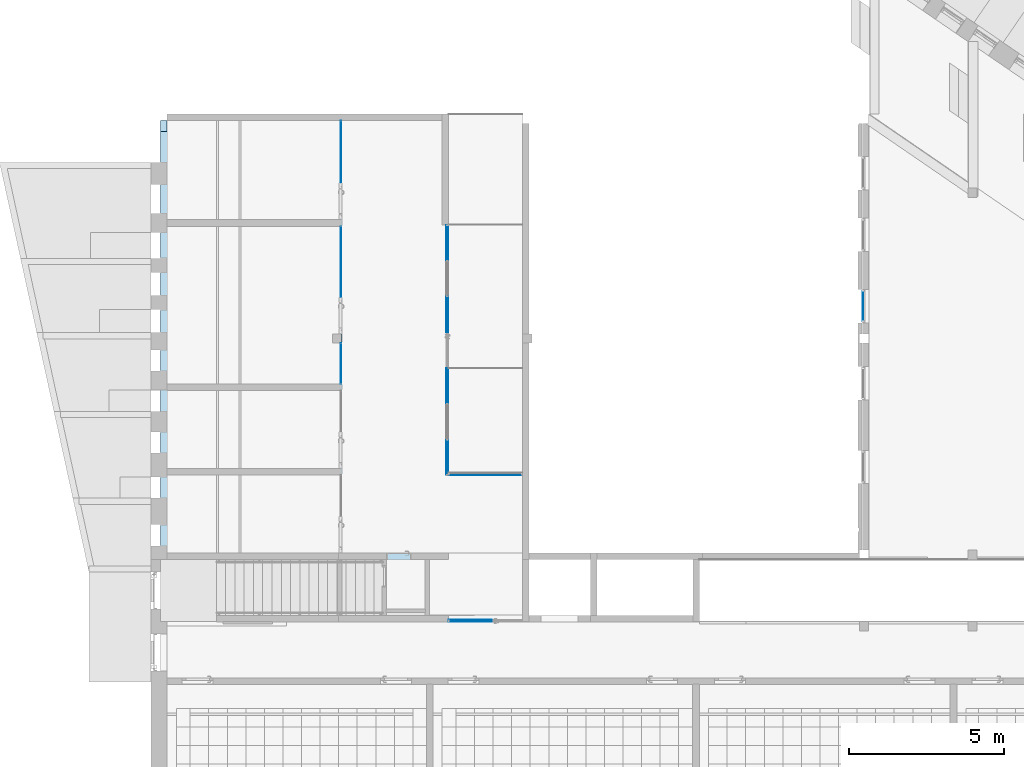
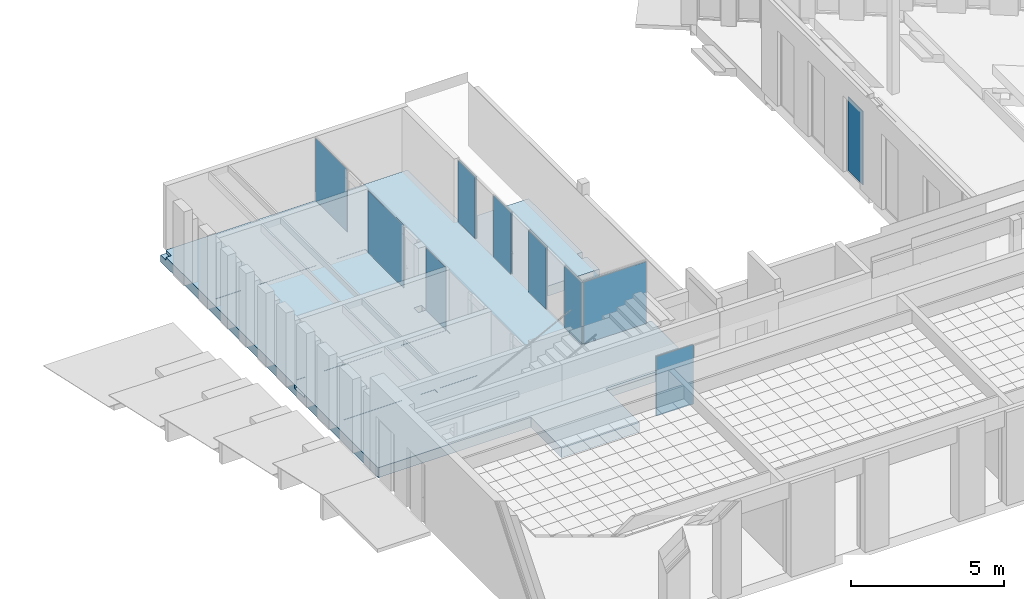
# One storey, part 31 of 79: 10 plates, 1 slab, 7 elements without a shape of their own.
"""IFC2X3 building model written with IfcOpenShell, lengths in millimetres."""

from ifc_helpers import new_model, entity, si_unit, converted_unit, derived_unit, money_unit, direction, frame, origin_with_axes, place, context, subcontext, project, spatial, faceted_brep, material, material_list, type_object, element, aggregate, save


model = new_model("IFC2X3")

# Units and contexts
model_context = context("Model", 3, precision=0.01, world=origin_with_axes(), true_north=direction((0.0, 1.0)))
body_context = subcontext(model_context, "Body", "Model", "MODEL_VIEW")
ifc_project = project(units=[si_unit("LENGTHUNIT", "METRE", prefix="MILLI"), si_unit("AREAUNIT", "SQUARE_METRE"), si_unit("VOLUMEUNIT", "CUBIC_METRE"), converted_unit("PLANEANGLEUNIT", "DEGREE", entity("IfcPlaneAngleMeasure", 0.0174532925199), si_unit("PLANEANGLEUNIT", "RADIAN"), dimensions=[0, 0, 0, 0, 0, 0, 0]), si_unit("SOLIDANGLEUNIT", "STERADIAN"), money_unit("EUR"), converted_unit("TIMEUNIT", "Year", entity("IfcTimeMeasure", 31556926.0), si_unit("TIMEUNIT", "SECOND"), dimensions=[0, 0, 1, 0, 0, 0, 0]), si_unit("MASSUNIT", "GRAM", prefix="KILO"), si_unit("THERMODYNAMICTEMPERATUREUNIT", "DEGREE_CELSIUS"), si_unit("LUMINOUSINTENSITYUNIT", "LUMEN"), si_unit("ENERGYUNIT", "JOULE", prefix="MEGA"), derived_unit("THERMALCONDUCTANCEUNIT", [(si_unit("POWERUNIT", "WATT"), 1), (si_unit("LENGTHUNIT", "METRE"), -1), (si_unit("THERMODYNAMICTEMPERATUREUNIT", "KELVIN"), -1)]), derived_unit("SPECIFICHEATCAPACITYUNIT", [(si_unit("ENERGYUNIT", "JOULE"), 1), (si_unit("MASSUNIT", "GRAM", prefix="KILO"), -1), (si_unit("THERMODYNAMICTEMPERATUREUNIT", "KELVIN"), -1)]), derived_unit("MASSDENSITYUNIT", [(si_unit("MASSUNIT", "GRAM", prefix="KILO"), 1), (si_unit("VOLUMEUNIT", "CUBIC_METRE"), -1)])], contexts=[model_context])

# Site, building, storey
site_placement = place(None, origin_with_axes())
site = spatial("IfcSite", under=ifc_project, at=site_placement, Name="L.Koidula tn 11b", CompositionType="ELEMENT")
building_placement = place(site_placement, origin_with_axes())
building = spatial("IfcBuilding", under=site, at=building_placement, Name="Rakvere Riigigümnaasium", CompositionType="ELEMENT")
storey_placement = place(building_placement, frame((0.0, 0.0, 3720.0), z_axis=(0.0, 0.0, 1.0), x_axis=(1.0, 0.0, 0.0)))
storey = spatial("IfcBuildingStorey", under=building, at=storey_placement, Name="2.korrus +3,72", CompositionType="ELEMENT", Elevation=3720.0)

# Curtain wall, plate
curtain_wall_type = type_object("IfcCurtainWallType", Name="Curtain Wall Type", PredefinedType="NOTDEFINED")
curtain_wall_1_placement = place(storey_placement, frame((58002.0348101, 25296.3068145, -1405.00005955), z_axis=(0.0, 0.0, 1.0), x_axis=(1.0, 0.0, 0.0)))
curtain_wall_1 = element("IfcCurtainWall", 1, at=curtain_wall_1_placement, inside=storey, type_object=curtain_wall_type, Name="SKLF-21")
ifc_material_1 = material(Name="Klaaspakett 3x")
plate_type_1 = type_object("IfcPlateType", Name="Distinct Panel 970 x 2940 x 24", PredefinedType="CURTAIN_PANEL")
plate_1_placement = place(curtain_wall_1_placement, frame((0.0, 0.0, 1515.00001953), z_axis=(0.0, 0.0, 1.0), x_axis=(0.0, 1.0, 0.0)))
plate_1 = element("IfcPlate", 2, at=plate_1_placement, type_object=plate_type_1, material=ifc_material_1, Name="KLF-06-17-Klaasid", ObjectType="CURTAIN_PANEL", context=body_context, shape_type="Brep", body=[
    faceted_brep([(-484.999942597, -12.0, 1470.00000909), (484.999974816, -12.0, 1470.00005425), (484.999974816, 12.0, 1470.00005425), (-484.999942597, 12.0, 1470.00000909), (-484.999942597, -12.0, -1470.0000343), (484.999974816, -12.0, -1470.0000343), (484.999974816, 12.0, -1470.0000343), (-484.999942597, 12.0, -1470.0000343)], [[[0, 1, 2, 3]], [[0, 4, 5, 1]], [[1, 5, 6, 2]], [[3, 2, 6, 7]], [[4, 0, 3, 7]], [[5, 4, 7, 6]]]),
])
aggregate(curtain_wall_1, [plate_1])

curtain_wall_2_placement = place(storey_placement, frame((41131.0009816, 23440.4555362, -2.36129205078e-06), z_axis=(0.0, 0.0, 1.0), x_axis=(1.0, 0.0, 0.0)))
curtain_wall_2 = element("IfcCurtainWall", 3, at=curtain_wall_2_placement, inside=storey, type_object=curtain_wall_type, Name="SKLF-14")
ifc_material_2 = material(Name="VKR-05_Klaas")
plate_type_2 = type_object("IfcPlateType", Name="Siseklaasfassaad - Klaas 1303 x 2491 x 11", PredefinedType="CURTAIN_PANEL")
plate_2_placement = place(curtain_wall_2_placement, frame((0.0, 0.0, 1253.99997294), z_axis=(0.0, 0.0, 1.0), x_axis=(0.0, -1.0, 0.0)))
plate_2 = element("IfcPlate", 4, at=plate_2_placement, type_object=plate_type_2, material=ifc_material_2, Name="PV-SKLF-45-klaas", ObjectType="CURTAIN_PANEL", context=body_context, shape_type="Brep", body=[
    faceted_brep([(-651.500000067, 4.0, 1245.49997706), (-651.500000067, -8.0, 1245.49997706), (651.500015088, -8.0, 1245.49997706), (651.500015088, 4.0, 1245.49997706), (-651.500000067, 4.0, -1245.49997706), (-651.500000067, -8.0, -1245.49997706), (651.500015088, -8.0, -1245.49997706), (651.500015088, 4.0, -1245.49997706)], [[[0, 1, 2, 3]], [[4, 5, 1, 0]], [[1, 5, 6, 2]], [[3, 2, 6, 7]], [[0, 3, 7, 4]], [[7, 6, 5, 4]]]),
])
aggregate(curtain_wall_2, [plate_2])

curtain_wall_3_placement = place(storey_placement, frame((41130.915445, 24920.4555468, 0.0), z_axis=(0.0, 0.0, 1.0), x_axis=(1.0, 0.0, 0.0)))
curtain_wall_3 = element("IfcCurtainWall", 5, at=curtain_wall_3_placement, inside=storey, type_object=curtain_wall_type, Name="SKLF-15")
plate_type_3 = type_object("IfcPlateType", Name="Siseklaasfassaad - Klaas 20 x 308 x 11", PredefinedType="CURTAIN_PANEL")
plate_3_placement = place(curtain_wall_3_placement, frame((0.0613159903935, 1455.15434008, 1490.5), z_axis=(0.0, 0.0, 1.0), x_axis=(-4.21371043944e-05, -0.999999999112, 0.0)))
plate_3 = element("IfcPlate", 6, at=plate_3_placement, type_object=plate_type_3, material=ifc_material_2, Name="PV-SKLF-32-klaas", ObjectType="CURTAIN_PANEL", context=body_context, shape_type="Brep", body=[
    faceted_brep([(828.052828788, 4.0, 1017.5), (828.052828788, -8.0, 1017.5), (847.724518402, -8.0, 1017.5), (847.724518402, 4.0, 1017.5), (828.052828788, 4.0, 1009.00000393), (828.052828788, -8.0, 1009.00000393), (-1485.84931519, -8.0, 1009.00000393), (-1485.84931519, -8.0, -1482.00000393), (847.724518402, -8.0, -1482.00000393), (847.724518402, 4.0, -1482.00000393), (-1485.84931519, 4.0, -1482.00000393), (-1485.84931519, 4.0, 1009.00000393)], [[[0, 1, 2, 3]], [[4, 5, 1, 0]], [[1, 5, 6, 7, 8, 2]], [[3, 2, 8, 9]], [[0, 3, 9, 10, 11, 4]], [[11, 6, 5, 4]], [[10, 7, 6, 11]], [[9, 8, 7, 10]]]),
])
aggregate(curtain_wall_3, [plate_3])

curtain_wall_4_placement = place(storey_placement, frame((41130.915445, 28609.9592257, 0.0), z_axis=(0.0, 0.0, 1.0), x_axis=(1.0, 0.0, 0.0)))
curtain_wall_4 = element("IfcCurtainWall", 7, at=curtain_wall_4_placement, inside=storey, type_object=curtain_wall_type, Name="SKLF-16")
plate_type_4 = type_object("IfcPlateType", Name="Siseklaasfassaad - Klaas 2065 x 300 x 11", PredefinedType="CURTAIN_PANEL")
plate_4_placement = place(curtain_wall_4_placement, frame((0.0674298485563, 1600.24874666, 1569.33333333), z_axis=(0.0, 0.0, 1.0), x_axis=(-4.21371043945e-05, -0.999999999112, 0.0)))
plate_4 = element("IfcPlate", 8, at=plate_4_placement, type_object=plate_type_4, material=ifc_material_2, Name="PV-SKLF-38-klaas", ObjectType="CURTAIN_PANEL", context=body_context, shape_type="Brep", body=[
    faceted_brep([(-1071.74873029, 4.0, 930.166670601), (-1071.74873029, -8.0, 930.166670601), (992.818925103, -8.0, 930.166670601), (992.818925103, 4.0, 930.166670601), (-1071.74873029, 4.0, -1560.83333727), (-1071.74873029, -8.0, -1560.83333727), (992.818925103, -8.0, -1560.83333727), (992.818925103, 4.0, -1560.83333727)], [[[0, 1, 2, 3]], [[4, 5, 1, 0]], [[1, 5, 6, 2]], [[3, 2, 6, 7]], [[0, 3, 7, 4]], [[7, 6, 5, 4]]]),
])
aggregate(curtain_wall_4, [plate_4])

curtain_wall_5_placement = place(storey_placement, frame((45794.9999935, 19868.2190306, 0.0), z_axis=(0.0, 0.0, 1.0), x_axis=(1.0, 0.0, 0.0)))
curtain_wall_5 = element("IfcCurtainWall", 9, at=curtain_wall_5_placement, inside=storey, type_object=curtain_wall_type, Name="SKLF-18")
plate_type_5 = type_object("IfcPlateType", Name="Siseklaasfassaad - Klaas-Doubleline30 2360 x 2463 x 17", PredefinedType="CURTAIN_PANEL")
plate_5_placement = place(curtain_wall_5_placement, frame((0.0, 0.0, 1246.50001132), z_axis=(0.0, 0.0, 1.0), x_axis=(1.0, 0.0, 0.0)))
plate_5 = element("IfcPlate", 10, at=plate_5_placement, type_object=plate_type_5, material=ifc_material_2, Name="Panel-Siseklaasf-104", ObjectType="CURTAIN_PANEL", context=body_context, shape_type="Brep", body=[
    faceted_brep([(-1179.99999788, -37.0, 1231.49998866), (1179.99997733, -37.0, 1231.49998866), (1179.99997733, -25.0, 1231.49998866), (-1179.99999788, -25.0, 1231.49998866), (-1179.99999788, -37.0, -1231.49998866), (1179.99997733, -37.0, -1231.49998866), (1179.99997733, -25.0, -1231.49998866), (-1179.99999788, -25.0, -1231.49998866)], [[[0, 1, 2, 3]], [[0, 4, 5, 1]], [[1, 5, 6, 2]], [[3, 2, 6, 7]], [[4, 0, 3, 7]], [[5, 4, 7, 6]]]),
    faceted_brep([(-1179.99999788, 15.0, 1231.49998866), (1179.99997733, 15.0, 1231.49998866), (1179.99997733, 27.0, 1231.49998866), (-1179.99999788, 27.0, 1231.49998866), (-1179.99999788, 15.0, -1231.49998866), (1179.99997733, 15.0, -1231.49998866), (1179.99997733, 27.0, -1231.49998866), (-1179.99999788, 27.0, -1231.49998866)], [[[0, 1, 2, 3]], [[0, 4, 5, 1]], [[1, 5, 6, 2]], [[3, 2, 6, 7]], [[4, 0, 3, 7]], [[5, 4, 7, 6]]]),
])
aggregate(curtain_wall_5, [plate_5])

# Curtain wall, plates
curtain_wall_6_placement = place(storey_placement, frame((44568.0000786, 20404.7190306, -3.55964617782e-05), z_axis=(0.0, 0.0, 1.0), x_axis=(1.0, 0.0, 0.0)))
curtain_wall_6 = element("IfcCurtainWall", 11, at=curtain_wall_6_placement, inside=storey, type_object=curtain_wall_type, Name="SKLF-17")
plate_type_6 = type_object("IfcPlateType", Name="Siseklaasfassaad - Klaas-Doubleline30 1125 x 2463 x 17", PredefinedType="CURTAIN_PANEL")
plate_6_placement = place(curtain_wall_6_placement, frame((0.0, 0.0, 1246.5000178), z_axis=(0.0, 0.0, 1.0), x_axis=(0.0, -1.0, 0.0)))
plate_6 = element("IfcPlate", 12, at=plate_6_placement, type_object=plate_type_6, material=ifc_material_2, Name="Panel-Siseklaasf-127", ObjectType="CURTAIN_PANEL", context=body_context, shape_type="Brep", body=[
    faceted_brep([(-561.499982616, -37.0, 1231.49999505), (563.499977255, -37.0, 1231.49999505), (563.499977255, -25.0, 1231.49999505), (-561.499982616, -25.0, 1231.49999505), (-561.499982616, -37.0, -1231.49999505), (563.499977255, -37.0, -1231.49999505), (563.499977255, -25.0, -1231.49999505), (-561.499982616, -25.0, -1231.49999505)], [[[0, 1, 2, 3]], [[0, 4, 5, 1]], [[1, 5, 6, 2]], [[3, 2, 6, 7]], [[4, 0, 3, 7]], [[5, 4, 7, 6]]]),
    faceted_brep([(-561.499982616, 15.0, 1231.49999505), (563.499977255, 15.0, 1231.49999505), (563.499977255, 27.0, 1231.49999505), (-561.499982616, 27.0, 1231.49999505), (-561.499982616, 15.0, -1231.49999505), (563.499977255, 15.0, -1231.49999505), (563.499977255, 27.0, -1231.49999505), (-561.499982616, 27.0, -1231.49999505)], [[[0, 1, 2, 3]], [[0, 4, 5, 1]], [[1, 5, 6, 2]], [[3, 2, 6, 7]], [[4, 0, 3, 7]], [[5, 4, 7, 6]]]),
])
plate_7_placement = place(curtain_wall_6_placement, frame((0.0, 6937.0182276, 1246.5000178), z_axis=(0.0, 0.0, 1.0), x_axis=(0.0, -1.0, 0.0)))
plate_7 = element("IfcPlate", 13, at=plate_7_placement, type_object=plate_type_6, material=ifc_material_2, Name="Panel-Siseklaasf-131", ObjectType="CURTAIN_PANEL", context=body_context, shape_type="Brep", body=[
    faceted_brep([(-563.51820581, -37.0, 1231.49999505), (561.518196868, -37.0, 1231.49999505), (561.518196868, -25.0, 1231.49999505), (-563.51820581, -25.0, 1231.49999505), (-563.51820581, -37.0, -1231.49999505), (561.518196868, -37.0, -1231.49999505), (561.518196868, -25.0, -1231.49999505), (-563.51820581, -25.0, -1231.49999505)], [[[0, 1, 2, 3]], [[0, 4, 5, 1]], [[1, 5, 6, 2]], [[3, 2, 6, 7]], [[4, 0, 3, 7]], [[5, 4, 7, 6]]]),
    faceted_brep([(-563.51820581, 15.0, 1231.49999505), (561.518196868, 15.0, 1231.49999505), (561.518196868, 27.0, 1231.49999505), (-563.51820581, 27.0, 1231.49999505), (-563.51820581, 15.0, -1231.49999505), (561.518196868, 15.0, -1231.49999505), (561.518196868, 27.0, -1231.49999505), (-563.51820581, 27.0, -1231.49999505)], [[[0, 1, 2, 3]], [[0, 4, 5, 1]], [[1, 5, 6, 2]], [[3, 2, 6, 7]], [[4, 0, 3, 7]], [[5, 4, 7, 6]]]),
])
plate_type_7 = type_object("IfcPlateType", Name="Siseklaasfassaad - Klaas-Doubleline30 1139 x 2463 x 17", PredefinedType="CURTAIN_PANEL")
plate_8_placement = place(curtain_wall_6_placement, frame((0.0, 2312.5, 1246.5000178), z_axis=(0.0, 0.0, 1.0), x_axis=(0.0, -1.0, 0.0)))
plate_8 = element("IfcPlate", 14, at=plate_8_placement, type_object=plate_type_7, material=ifc_material_2, Name="Panel-Siseklaasf-128", ObjectType="CURTAIN_PANEL", context=body_context, shape_type="Brep", body=[
    faceted_brep([(-578.000009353, -37.0, 1231.49999505), (560.999969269, -37.0, 1231.49999505), (560.999969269, -25.0, 1231.49999505), (-578.000009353, -25.0, 1231.49999505), (-578.000009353, -37.0, -1231.49999505), (560.999969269, -37.0, -1231.49999505), (560.999969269, -25.0, -1231.49999505), (-578.000009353, -25.0, -1231.49999505)], [[[0, 1, 2, 3]], [[0, 4, 5, 1]], [[1, 5, 6, 2]], [[3, 2, 6, 7]], [[4, 0, 3, 7]], [[5, 4, 7, 6]]]),
    faceted_brep([(-578.000009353, 15.0, 1231.49999505), (560.999969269, 15.0, 1231.49999505), (560.999969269, 27.0, 1231.49999505), (-578.000009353, 27.0, 1231.49999505), (-578.000009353, 15.0, -1231.49999505), (560.999969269, 15.0, -1231.49999505), (560.999969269, 27.0, -1231.49999505), (-578.000009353, 27.0, -1231.49999505)], [[[0, 1, 2, 3]], [[0, 4, 5, 1]], [[1, 5, 6, 2]], [[3, 2, 6, 7]], [[4, 0, 3, 7]], [[5, 4, 7, 6]]]),
])
plate_9_placement = place(curtain_wall_6_placement, frame((0.0, 4624.5, 1246.5000178), z_axis=(0.0, 0.0, 1.0), x_axis=(0.0, -1.0, 0.0)))
plate_9 = element("IfcPlate", 15, at=plate_9_placement, type_object=plate_type_7, material=ifc_material_2, Name="Panel-Siseklaasf-129", ObjectType="CURTAIN_PANEL", context=body_context, shape_type="Brep", body=[
    faceted_brep([(-560.999978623, -37.0, 1231.49999505), (578.0, -37.0, 1231.49999505), (578.0, -25.0, 1231.49999505), (-560.999978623, -25.0, 1231.49999505), (-560.999978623, -37.0, -1231.49999505), (578.0, -37.0, -1231.49999505), (578.0, -25.0, -1231.49999505), (-560.999978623, -25.0, -1231.49999505)], [[[0, 1, 2, 3]], [[0, 4, 5, 1]], [[1, 5, 6, 2]], [[3, 2, 6, 7]], [[4, 0, 3, 7]], [[5, 4, 7, 6]]]),
    faceted_brep([(-560.999978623, 15.0, 1231.49999505), (578.0, 15.0, 1231.49999505), (578.0, 27.0, 1231.49999505), (-560.999978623, 27.0, 1231.49999505), (-560.999978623, 15.0, -1231.49999505), (578.0, 15.0, -1231.49999505), (578.0, 27.0, -1231.49999505), (-560.999978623, 27.0, -1231.49999505)], [[[0, 1, 2, 3]], [[0, 4, 5, 1]], [[1, 5, 6, 2]], [[3, 2, 6, 7]], [[4, 0, 3, 7]], [[5, 4, 7, 6]]]),
])
aggregate(curtain_wall_6, [plate_6, plate_8, plate_9, plate_7])

# Curtain wall, plate
curtain_wall_7_placement = place(storey_placement, frame((45299.9999374, 15122.4785302, 0.0), z_axis=(0.0, 0.0, 1.0), x_axis=(1.0, 0.0, 0.0)))
curtain_wall_7 = element("IfcCurtainWall", 16, at=curtain_wall_7_placement, inside=storey, type_object=curtain_wall_type, Name="SKLF-11")
plate_type_8 = type_object("IfcPlateType", Name="Siseklaasfassaad - Klaas-Doubleline30 1385 x 2370 x 17", PredefinedType="CURTAIN_PANEL")
plate_10_placement = place(curtain_wall_7_placement, frame((0.0, 0.0, 1200.00000581), z_axis=(0.0, 0.0, 1.0), x_axis=(-1.0, 0.0, 0.0)))
plate_10 = element("IfcPlate", 17, at=plate_10_placement, type_object=plate_type_8, material=ifc_material_2, Name="Panel-Siseklaasf-104", ObjectType="CURTAIN_PANEL", context=body_context, shape_type="Brep", body=[
    faceted_brep([(-700.00000678, -37.0, 1185.00000574), (684.999999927, -37.0, 1185.00000574), (684.999999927, -25.0, 1185.00000574), (-700.00000678, -25.0, 1185.00000574), (-700.00000678, -37.0, -1185.00000574), (684.999999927, -37.0, -1185.00000574), (684.999999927, -25.0, -1185.00000574), (-700.00000678, -25.0, -1185.00000574)], [[[0, 1, 2, 3]], [[0, 4, 5, 1]], [[1, 5, 6, 2]], [[3, 2, 6, 7]], [[4, 0, 3, 7]], [[5, 4, 7, 6]]]),
    faceted_brep([(-700.00000678, 15.0, 1185.00000574), (684.999999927, 15.0, 1185.00000574), (684.999999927, 27.0, 1185.00000574), (-700.00000678, 27.0, 1185.00000574), (-700.00000678, 15.0, -1185.00000574), (684.999999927, 15.0, -1185.00000574), (684.999999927, 27.0, -1185.00000574), (-700.00000678, 27.0, -1185.00000574)], [[[0, 1, 2, 3]], [[0, 4, 5, 1]], [[1, 5, 6, 2]], [[3, 2, 6, 7]], [[4, 0, 3, 7]], [[5, 4, 7, 6]]]),
])
aggregate(curtain_wall_7, [plate_10])

# Slab
ifc_material_3 = material(Name="vaip")
ifc_material_4 = material(Name="Betoon")
ifc_material_5 = material(Name="Mürasummutus vill")
ifc_material_6 = material(Name="Betoon õõnespaneel")
ifc_material_list = material_list([ifc_material_3, ifc_material_4, ifc_material_5, ifc_material_6])
slab_type = type_object("IfcSlabType", Name="VL-01-3 395", PredefinedType="NOTDEFINED")
slab_placement = place(storey_placement, frame((35300.0, 17110.4555518, 0.0), z_axis=(0.0, 0.0, 1.0), x_axis=(1.0, 0.0, 0.0)))
element("IfcSlab", 18, at=slab_placement, inside=storey, type_object=slab_type, material=ifc_material_list, Name="Vahelagi", PredefinedType="NOTDEFINED", context=body_context, shape_type="Brep", body=[
    faceted_brep([(11700.0013931, 6989.99999544, -5.0), (11899.9998088, 6989.99999544, -5.0), (11899.9998088, 6180.01573363, -5.0), (9300.00013458, 6180.01573363, -5.0), (9300.00013458, 2789.7634696, -5.0), (11899.9998088, 2789.7634696, -5.0), (11899.9998088, 199.999826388, -5.0), (8679.99980375, 199.999826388, -5.0), (8679.99980375, -2009.98010201, -5.0), (5750.00104361, -2009.98010201, -5.0), (5750.00104361, 0.0, -5.0), (0.0, 0.0, -5.0), (0.0, 5459.99997349, -5.0), (3820.00728562, 5459.99997349, -5.0), (3820.00728562, 5659.99997349, -5.0), (200.000052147, 5659.99997349, -5.0), (200.000052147, 5469.99997349, -5.0), (0.0, 5469.99997349, -5.0), (0.0, 13819.9999735, -5.0), (200.000052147, 13819.9999735, -5.0), (200.000052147, 14189.9999593, -5.0), (9300.00013458, 14190.0000418, -5.0), (9300.00013458, 10809.9997411, -5.0), (11899.9998088, 10809.9999825, -5.0), (11899.9998088, 7289.99999544, -5.0), (11700.0013931, 7289.99999544, -5.0), (200.000052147, 10969.5036744, -5.0), (200.000052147, 10769.5036744, -5.0), (5850.00098215, 10769.5036744, -5.0), (5850.00098215, 10969.5036744, -5.0), (4020.00728562, 5659.99997349, -5.0), (4020.00728562, 5459.99997349, -5.0), (5850.00098215, 5459.99997349, -5.0), (5850.00098215, 5659.99997349, -5.0), (4020.00728562, 2929.99997058, -5.0), (4020.00728562, 2729.99997058, -5.0), (5850.00098215, 2729.99997058, -5.0), (5850.00098215, 2929.99997058, -5.0), (200.000052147, 2929.99997058, -5.0), (200.000052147, 2729.99997058, -5.0), (3820.00728562, 2729.99997058, -5.0), (3820.00728562, 2929.99997058, -5.0), (5550.00098215, 6989.99999544, -5.0), (5850.00098215, 6989.99999544, -5.0), (5850.00098215, 7289.99999544, -5.0), (5550.00098215, 7289.99999544, -5.0), (11700.0013931, 6989.99999544, 0.0), (11899.9998088, 6989.99999544, 0.0), (11899.9998088, 6180.01573363, 0.0), (9300.00013458, 6180.01573363, 0.0), (9300.00013458, 2789.7634696, 0.0), (11899.9998088, 2789.7634696, 0.0), (11899.9998088, 199.999826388, 0.0), (8679.99980375, 199.999826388, 0.0), (8679.99980375, -2009.98010201, 0.0), (5750.00104361, -2009.98010201, 0.0), (5750.00104361, 0.0, 0.0), (0.0, 0.0, 0.0), (0.0, 5459.99997349, 0.0), (3820.00728562, 5459.99997349, 0.0), (3820.00728562, 5659.99997349, 0.0), (200.000052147, 5659.99997349, 0.0), (200.000052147, 5469.99997349, 0.0), (0.0, 5469.99997349, 0.0), (0.0, 13819.9999735, 1.96695504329e-06), (200.000052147, 13819.9999735, 1.96695504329e-06), (200.000052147, 14189.9999593, 1.96695504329e-06), (9300.00013458, 14190.0000418, 0.0), (9300.00013458, 10809.9997411, 0.0), (11899.9998088, 10809.9999825, 0.0), (11899.9998088, 7289.99999544, 0.0), (11700.0013931, 7289.99999544, 0.0), (200.000052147, 10969.5036744, 0.0), (200.000052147, 10769.5036744, 0.0), (5850.00098215, 10769.5036744, 0.0), (5850.00098215, 10969.5036744, 0.0), (4020.00728562, 5659.99997349, 0.0), (4020.00728562, 5459.99997349, 0.0), (5850.00098215, 5459.99997349, 0.0), (5850.00098215, 5659.99997349, 0.0), (4020.00728562, 2929.99997058, 0.0), (4020.00728562, 2729.99997058, 0.0), (5850.00098215, 2729.99997058, 0.0), (5850.00098215, 2929.99997058, 0.0), (200.000052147, 2929.99997058, 0.0), (200.000052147, 2729.99997058, 0.0), (3820.00728562, 2729.99997058, 0.0), (3820.00728562, 2929.99997058, 0.0), (5550.00098215, 6989.99999544, 0.0), (5850.00098215, 6989.99999544, 0.0), (5850.00098215, 7289.99999544, 0.0), (5550.00098215, 7289.99999544, 0.0)], [[[0, 1, 2, 3, 4, 5, 6, 7, 8, 9, 10, 11, 12, 13, 14, 15, 16, 17, 18, 19, 20, 21, 22, 23, 24, 25], [26, 27, 28, 29], [30, 31, 32, 33], [34, 35, 36, 37], [38, 39, 40, 41], [42, 43, 44, 45]], [[46, 47, 1, 0]], [[1, 47, 48, 2]], [[49, 3, 2, 48]], [[50, 4, 3, 49]], [[51, 5, 4, 50]], [[52, 6, 5, 51]], [[53, 7, 6, 52]], [[54, 8, 7, 53]], [[55, 9, 8, 54]], [[56, 10, 9, 55]], [[57, 11, 10, 56]], [[57, 58, 12, 11]], [[58, 59, 13, 12]], [[13, 59, 60, 14]], [[14, 60, 61, 15]], [[15, 61, 62, 16]], [[16, 62, 63, 17]], [[18, 17, 63, 64]], [[18, 64, 65, 19]], [[19, 65, 66, 20]], [[21, 20, 66, 67]], [[68, 22, 21, 67]], [[69, 23, 22, 68]], [[70, 24, 23, 69]], [[24, 70, 71, 25]], [[71, 46, 0, 25]], [[26, 72, 73, 27]], [[27, 73, 74, 28]], [[28, 74, 75, 29]], [[29, 75, 72, 26]], [[30, 76, 77, 31]], [[31, 77, 78, 32]], [[32, 78, 79, 33]], [[33, 79, 76, 30]], [[34, 80, 81, 35]], [[35, 81, 82, 36]], [[36, 82, 83, 37]], [[37, 83, 80, 34]], [[38, 84, 85, 39]], [[39, 85, 86, 40]], [[40, 86, 87, 41]], [[41, 87, 84, 38]], [[88, 89, 43, 42]], [[89, 90, 44, 43]], [[90, 91, 45, 44]], [[91, 88, 42, 45]], [[46, 71, 70, 69, 68, 67, 66, 65, 64, 63, 62, 61, 60, 59, 58, 57, 56, 55, 54, 53, 52, 51, 50, 49, 48, 47], [74, 73, 72, 75], [78, 77, 76, 79], [82, 81, 80, 83], [86, 85, 84, 87], [88, 91, 90, 89]]]),
    faceted_brep([(11700.0013931, 6989.99999544, -100.0), (11899.9998088, 6989.99999544, -100.0), (11899.9998088, 6180.01573363, -100.0), (9300.00013458, 6180.01573363, -100.0), (9300.00013458, 2789.7634696, -100.0), (11899.9998088, 2789.7634696, -100.0), (11899.9998088, 199.999826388, -100.0), (8679.99980375, 199.999826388, -100.0), (8679.99980375, -2009.98010201, -100.0), (5750.00104361, -2009.98010201, -100.0), (5750.00104361, 0.0, -100.0), (0.0, 0.0, -100.0), (5.21467029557e-05, 4799.99997349, -100.0), (200.000052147, 4799.99997349, -100.0), (200.000052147, 5449.99997349, -100.0), (5.21467029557e-05, 5449.99997349, -100.0), (0.0, 13819.9999735, -100.0), (200.000052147, 13819.9999735, -100.0), (200.000052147, 14189.9999593, -100.0), (9300.00013458, 14190.0000418, -100.0), (9300.00013458, 10809.9997411, -100.0), (11899.9998088, 10809.9999825, -100.0), (11899.9998088, 7289.99999544, -100.0), (11700.0013931, 7289.99999544, -100.0), (5550.00098215, 6989.99999544, -100.0), (5850.00098215, 6989.99999544, -100.0), (5850.00098215, 7289.99999544, -100.0), (5550.00098215, 7289.99999544, -100.0), (11700.0013931, 6989.99999544, -5.0), (11899.9998088, 6989.99999544, -5.0), (11899.9998088, 6180.01573363, -5.0), (9300.00013458, 6180.01573363, -5.0), (9300.00013458, 2789.7634696, -5.0), (11899.9998088, 2789.7634696, -5.0), (11899.9998088, 199.999826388, -5.0), (8679.99980375, 199.999826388, -5.0), (8679.99980375, -2009.98010201, -5.0), (5750.00104361, -2009.98010201, -5.0), (5750.00104361, 0.0, -5.0), (0.0, 0.0, -5.0), (5.21467029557e-05, 4799.99997349, -5.0), (200.000052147, 4799.99997349, -5.0), (200.000052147, 5449.99997349, -5.0), (5.21467029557e-05, 5449.99997349, -5.0), (0.0, 13819.9999735, -5.0), (200.000052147, 13819.9999735, -5.0), (200.000052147, 14189.9999593, -5.0), (9300.00013458, 14190.0000418, -5.0), (9300.00013458, 10809.9997411, -5.0), (11899.9998088, 10809.9999825, -5.0), (11899.9998088, 7289.99999544, -5.0), (11700.0013931, 7289.99999544, -5.0), (5550.00098215, 6989.99999544, -5.0), (5850.00098215, 6989.99999544, -5.0), (5850.00098215, 7289.99999544, -5.0), (5550.00098215, 7289.99999544, -5.0)], [[[0, 1, 2, 3, 4, 5, 6, 7, 8, 9, 10, 11, 12, 13, 14, 15, 16, 17, 18, 19, 20, 21, 22, 23], [24, 25, 26, 27]], [[28, 29, 1, 0]], [[1, 29, 30, 2]], [[31, 3, 2, 30]], [[32, 4, 3, 31]], [[33, 5, 4, 32]], [[34, 6, 5, 33]], [[35, 7, 6, 34]], [[36, 8, 7, 35]], [[37, 9, 8, 36]], [[38, 10, 9, 37]], [[39, 11, 10, 38]], [[39, 40, 12, 11]], [[12, 40, 41, 13]], [[13, 41, 42, 14]], [[14, 42, 43, 15]], [[16, 15, 43, 44]], [[16, 44, 45, 17]], [[17, 45, 46, 18]], [[19, 18, 46, 47]], [[48, 20, 19, 47]], [[49, 21, 20, 48]], [[50, 22, 21, 49]], [[22, 50, 51, 23]], [[51, 28, 0, 23]], [[52, 53, 25, 24]], [[53, 54, 26, 25]], [[54, 55, 27, 26]], [[55, 52, 24, 27]], [[28, 51, 50, 49, 48, 47, 46, 45, 44, 43, 42, 41, 40, 39, 38, 37, 36, 35, 34, 33, 32, 31, 30, 29], [52, 55, 54, 53]]]),
    faceted_brep([(11700.0013931, 6989.99999544, -130.0), (11899.9998088, 6989.99999544, -130.0), (11899.9998088, 6180.01573363, -130.0), (9300.00013458, 6180.01573363, -130.0), (9300.00013458, 2789.7634696, -130.0), (11899.9998088, 2789.7634696, -130.0), (11899.9998088, 199.999826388, -130.0), (8679.99980375, 199.999826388, -130.0), (8679.99980375, -2009.98010201, -130.0), (5750.00104361, -2009.98010201, -130.0), (5750.00104361, 0.0, -130.0), (0.0, 0.0, -130.0), (5.21467029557e-05, 4799.99997349, -130.0), (200.000052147, 4799.99997349, -130.0), (200.000052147, 5449.99997349, -130.0), (5.21467029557e-05, 5449.99997349, -130.0), (0.0, 13819.9999735, -130.0), (200.000052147, 13819.9999735, -130.0), (200.000052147, 14189.9999593, -130.0), (9300.00013458, 14190.0000418, -130.0), (9300.00013458, 10809.9997411, -130.0), (11899.9998088, 10809.9999825, -130.0), (11899.9998088, 7289.99999544, -130.0), (11700.0013931, 7289.99999544, -130.0), (5550.00098215, 6989.99999544, -130.0), (5850.00098215, 6989.99999544, -130.0), (5850.00098215, 7289.99999544, -130.0), (5550.00098215, 7289.99999544, -130.0), (11700.0013931, 6989.99999544, -100.0), (11899.9998088, 6989.99999544, -100.0), (11899.9998088, 6180.01573363, -100.0), (9300.00013458, 6180.01573363, -100.0), (9300.00013458, 2789.7634696, -100.0), (11899.9998088, 2789.7634696, -100.0), (11899.9998088, 199.999826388, -100.0), (8679.99980375, 199.999826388, -100.0), (8679.99980375, -2009.98010201, -100.0), (5750.00104361, -2009.98010201, -100.0), (5750.00104361, 0.0, -100.0), (0.0, 0.0, -100.0), (5.21467029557e-05, 4799.99997349, -100.0), (200.000052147, 4799.99997349, -100.0), (200.000052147, 5449.99997349, -100.0), (5.21467029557e-05, 5449.99997349, -100.0), (0.0, 13819.9999735, -100.0), (200.000052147, 13819.9999735, -100.0), (200.000052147, 14189.9999593, -100.0), (9300.00013458, 14190.0000418, -100.0), (9300.00013458, 10809.9997411, -100.0), (11899.9998088, 10809.9999825, -100.0), (11899.9998088, 7289.99999544, -100.0), (11700.0013931, 7289.99999544, -100.0), (5550.00098215, 6989.99999544, -100.0), (5850.00098215, 6989.99999544, -100.0), (5850.00098215, 7289.99999544, -100.0), (5550.00098215, 7289.99999544, -100.0)], [[[0, 1, 2, 3, 4, 5, 6, 7, 8, 9, 10, 11, 12, 13, 14, 15, 16, 17, 18, 19, 20, 21, 22, 23], [24, 25, 26, 27]], [[28, 29, 1, 0]], [[1, 29, 30, 2]], [[31, 3, 2, 30]], [[32, 4, 3, 31]], [[33, 5, 4, 32]], [[34, 6, 5, 33]], [[35, 7, 6, 34]], [[36, 8, 7, 35]], [[37, 9, 8, 36]], [[38, 10, 9, 37]], [[39, 11, 10, 38]], [[39, 40, 12, 11]], [[12, 40, 41, 13]], [[13, 41, 42, 14]], [[14, 42, 43, 15]], [[16, 15, 43, 44]], [[16, 44, 45, 17]], [[17, 45, 46, 18]], [[19, 18, 46, 47]], [[48, 20, 19, 47]], [[49, 21, 20, 48]], [[50, 22, 21, 49]], [[22, 50, 51, 23]], [[51, 28, 0, 23]], [[52, 53, 25, 24]], [[53, 54, 26, 25]], [[54, 55, 27, 26]], [[55, 52, 24, 27]], [[28, 51, 50, 49, 48, 47, 46, 45, 44, 43, 42, 41, 40, 39, 38, 37, 36, 35, 34, 33, 32, 31, 30, 29], [52, 55, 54, 53]]]),
    faceted_brep([(11700.0013931, 6989.99999544, -395.0), (11899.9998088, 6989.99999544, -395.0), (11899.9998088, 6180.01573363, -395.0), (9300.00013458, 6180.01573363, -395.0), (9300.00013458, 2789.7634696, -395.0), (11899.9998088, 2789.7634696, -395.0), (11899.9998088, 199.999826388, -395.0), (8679.99980375, 199.999826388, -395.0), (8679.99980375, -2009.98010201, -395.0), (5750.00104361, -2009.98010201, -395.0), (5750.00104361, 0.0, -395.0), (0.0, 0.0, -395.0), (0.0, 14190.0000418, -395.0), (9300.00013458, 14190.0000418, -395.0), (9300.00013458, 10809.9997411, -395.0), (11899.9998088, 10809.9999825, -395.0), (11899.9998088, 7289.99999544, -395.0), (11700.0013931, 7289.99999544, -395.0), (5550.00098215, 6989.99999544, -395.0), (5850.00098215, 6989.99999544, -395.0), (5850.00098215, 7289.99999544, -395.0), (5550.00098215, 7289.99999544, -395.0), (11700.0013931, 6989.99999544, -130.0), (11899.9998088, 6989.99999544, -130.0), (11899.9998088, 6180.01573363, -130.0), (9300.00013458, 6180.01573363, -130.0), (9300.00013458, 2789.7634696, -130.0), (11899.9998088, 2789.7634696, -130.0), (11899.9998088, 199.999826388, -130.0), (8679.99980375, 199.999826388, -130.0), (8679.99980375, -2009.98010201, -130.0), (5750.00104361, -2009.98010201, -130.0), (5750.00104361, 0.0, -130.0), (0.0, 0.0, -130.0), (0.0, 14190.0000418, -130.0), (9300.00013458, 14190.0000418, -130.0), (9300.00013458, 10809.9997411, -130.0), (11899.9998088, 10809.9999825, -130.0), (11899.9998088, 7289.99999544, -130.0), (11700.0013931, 7289.99999544, -130.0), (5550.00098215, 6989.99999544, -130.0), (5850.00098215, 6989.99999544, -130.0), (5850.00098215, 7289.99999544, -130.0), (5550.00098215, 7289.99999544, -130.0)], [[[0, 1, 2, 3, 4, 5, 6, 7, 8, 9, 10, 11, 12, 13, 14, 15, 16, 17], [18, 19, 20, 21]], [[22, 23, 1, 0]], [[1, 23, 24, 2]], [[24, 25, 3, 2]], [[25, 26, 4, 3]], [[26, 27, 5, 4]], [[27, 28, 6, 5]], [[28, 29, 7, 6]], [[29, 30, 8, 7]], [[30, 31, 9, 8]], [[31, 32, 10, 9]], [[32, 33, 11, 10]], [[33, 34, 12, 11]], [[34, 35, 13, 12]], [[35, 36, 14, 13]], [[36, 37, 15, 14]], [[38, 16, 15, 37]], [[16, 38, 39, 17]], [[39, 22, 0, 17]], [[40, 41, 19, 18]], [[41, 42, 20, 19]], [[42, 43, 21, 20]], [[43, 40, 18, 21]], [[22, 39, 38, 37, 36, 35, 34, 33, 32, 31, 30, 29, 28, 27, 26, 25, 24, 23], [40, 43, 42, 41]]]),
])

save(model, "model.ifc")
